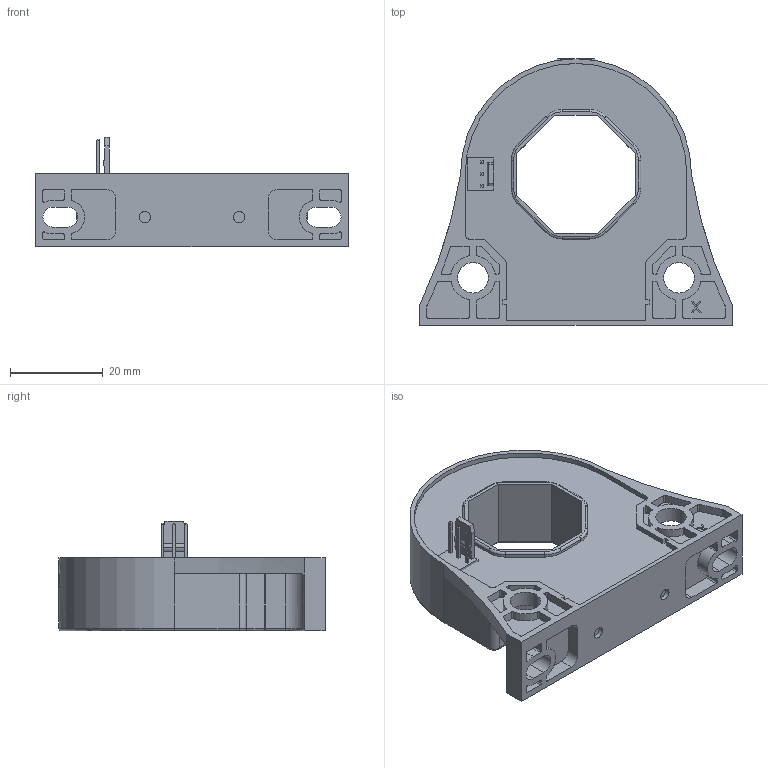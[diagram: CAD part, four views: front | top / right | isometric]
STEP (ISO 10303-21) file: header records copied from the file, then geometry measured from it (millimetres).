
FILE_DESCRIPTION(('OneSpaceDesigner STEP Export'),'2;1');
FILE_NAME('LF306-S_Blackbox.pkg.stp','2008-11-04T17:54:08',(''),(''),'OneSpace Designer STEP processor for AP214 (Solid Model)','OneSpace Modeling 15.00B 25-Jun-2007 (C) CoCreate Software GmbH','');
FILE_SCHEMA(('AUTOMOTIVE_DESIGN { 1 0 10303 214 1 1 1 1 }'));
Length unit declared in the file: millimetre
Products named in the file (4): Boîtier_modifié; Moulage; connecteur_MOLEX_5045-03_AG; LF306-S_Blackbox
Assembly tree (3 placements, depth 2):
  LF306-S_Blackbox
    connecteur_MOLEX_5045-03_AG
    Moulage
    Boîtier_modifié
Bounding box: 67.3 x 57.4 x 23.6 mm (x, y, z)
Volume: 28919.9 mm3; surface area: 14892.6 mm2
Topology: 3 solids, 15 shells, 1323 faces, 3564 edges, 2354 vertices
Faces by surface type: plane 945, cylinder 332, torus 25, extrusion 13, cone 8
Entity records: 40891 total; most frequent: CARTESIAN_POINT 7582, ORIENTED_EDGE 7128, DIRECTION 6346, EDGE_CURVE 3564, VECTOR 2834, LINE 2821, VERTEX_POINT 2354, AXIS2_PLACEMENT_3D 1756
